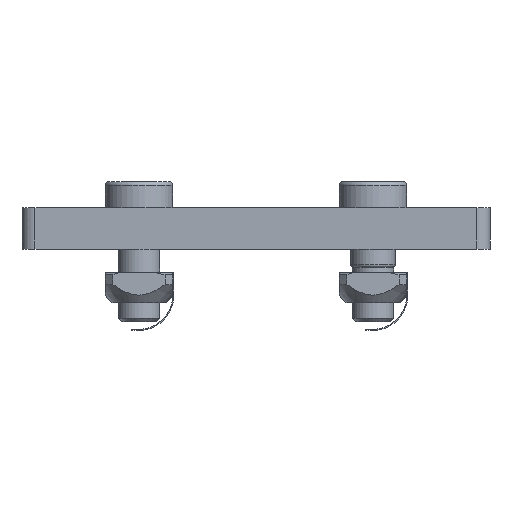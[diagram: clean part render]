
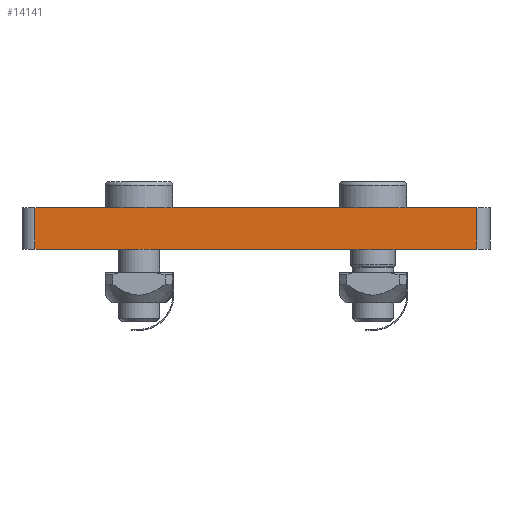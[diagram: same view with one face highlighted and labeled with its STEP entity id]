
A CAD part, front view. The second image highlights one B-rep face of the part: STEP entity #14141.
In plain terms, the highlighted planar face has unit normal (0, -1, 0).
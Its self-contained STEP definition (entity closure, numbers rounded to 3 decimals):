
#396 = DIRECTION ( 'NONE',  ( 0., 0., 1. ) ) ;
#514 = VERTEX_POINT ( 'NONE', #19591 ) ;
#2718 = EDGE_CURVE ( 'NONE', #18208, #3412, #11502, .T. ) ;
#3040 = ORIENTED_EDGE ( 'NONE', *, *, #10185, .F. ) ;
#3412 = VERTEX_POINT ( 'NONE', #24355 ) ;
#7219 = LINE ( 'NONE', #11288, #14549 ) ;
#7362 = VERTEX_POINT ( 'NONE', #20248 ) ;
#8446 = PLANE ( 'NONE',  #26772 ) ;
#9775 = ORIENTED_EDGE ( 'NONE', *, *, #2718, .T. ) ;
#9841 = CARTESIAN_POINT ( 'NONE',  ( 627.664, 774.726, 1269.953 ) ) ;
#10185 = EDGE_CURVE ( 'NONE', #18208, #514, #22405, .T. ) ;
#10831 = CARTESIAN_POINT ( 'NONE',  ( 625.164, 774.726, 1269.953 ) ) ;
#11288 = CARTESIAN_POINT ( 'NONE',  ( 712.664, 774.726, 1269.953 ) ) ;
#11502 = LINE ( 'NONE', #13463, #17767 ) ;
#13193 = EDGE_CURVE ( 'NONE', #3412, #7362, #25592, .T. ) ;
#13463 = CARTESIAN_POINT ( 'NONE',  ( 627.664, 774.726, 1269.953 ) ) ;
#13654 = DIRECTION ( 'NONE',  ( 1., 0., 0. ) ) ;
#14141 = ADVANCED_FACE ( 'NONE', ( #25915 ), #8446, .F. ) ;
#14549 = VECTOR ( 'NONE', #396, 1000. ) ;
#17080 = EDGE_CURVE ( 'NONE', #7362, #514, #7219, .T. ) ;
#17666 = EDGE_LOOP ( 'NONE', ( #22587, #27207, #3040, #9775 ) ) ;
#17767 = VECTOR ( 'NONE', #26150, 1000. ) ;
#18208 = VERTEX_POINT ( 'NONE', #9841 ) ;
#19039 = DIRECTION ( 'NONE',  ( 0., 0., 1. ) ) ;
#19143 = DIRECTION ( 'NONE',  ( 1., 0., 0. ) ) ;
#19591 = CARTESIAN_POINT ( 'NONE',  ( 712.664, 774.726, 1269.953 ) ) ;
#20248 = CARTESIAN_POINT ( 'NONE',  ( 712.664, 774.726, 1261.953 ) ) ;
#21095 = VECTOR ( 'NONE', #13654, 1000. ) ;
#21138 = DIRECTION ( 'NONE',  ( 0., 1., 0. ) ) ;
#22405 = LINE ( 'NONE', #26788, #21095 ) ;
#22587 = ORIENTED_EDGE ( 'NONE', *, *, #13193, .T. ) ;
#23061 = CARTESIAN_POINT ( 'NONE',  ( 625.164, 774.726, 1261.953 ) ) ;
#24355 = CARTESIAN_POINT ( 'NONE',  ( 627.664, 774.726, 1261.953 ) ) ;
#24413 = VECTOR ( 'NONE', #19143, 1000. ) ;
#25592 = LINE ( 'NONE', #23061, #24413 ) ;
#25915 = FACE_OUTER_BOUND ( 'NONE', #17666, .T. ) ;
#26150 = DIRECTION ( 'NONE',  ( 0., 0., -1. ) ) ;
#26772 = AXIS2_PLACEMENT_3D ( 'NONE', #10831, #21138, #19039 ) ;
#26788 = CARTESIAN_POINT ( 'NONE',  ( 625.164, 774.726, 1269.953 ) ) ;
#27207 = ORIENTED_EDGE ( 'NONE', *, *, #17080, .T. ) ;
